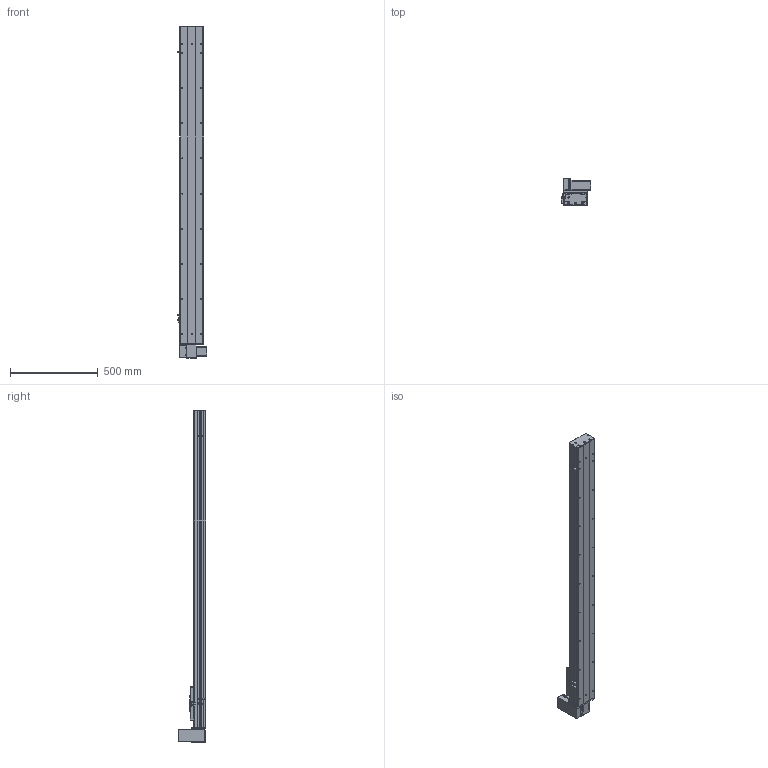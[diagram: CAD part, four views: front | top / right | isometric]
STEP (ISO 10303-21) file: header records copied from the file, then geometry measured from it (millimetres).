
FILE_DESCRIPTION (( 'STEP AP203' ), '1' );
FILE_NAME ('Y135CB-D90-S1500-UR-P400W.STEP', '2020-02-18T04:15:56', ( '微软用户' ), ( '微软中国' ), 'SwSTEP 2.0', 'SolidWorks 2017', '' );
FILE_SCHEMA (( 'CONFIG_CONTROL_DESIGN' ));
Length unit declared in the file: millimetre
Products named in the file (18): Y10B-耜蚾蟀諉啣----; 5CB --掛极耜裔啣-; 00B-俋欶BM--; C-詩湍揤踡え-陔; Y135CB-耜裔; Y135CB-D90-S1500-UR-P400W; 135CB--詩湍-CE; 135CB---遴掛极.-; Y100-135俋离換覜ん--; 35CB---喘謫眊楊擘啣; Y135C-陔俋离換覜結え-; 0B-埴倛裔啣; 5C--俋欶; 0B-源倛裔啣; C-雄赽釱--; 0B-萇儂楊擘啣; Y10B--々湍喘謫眊--666; san松下电机400不带刹车----
Assembly tree (21 placements, depth 2):
  Y135CB-D90-S1500-UR-P400W
    Y135CB-耜裔
    135CB---遴掛极.-
    35CB---喘謫眊楊擘啣
    0B-埴倛裔啣
    0B-源倛裔啣
    0B-萇儂楊擘啣
    san松下电机400不带刹车----
    5CB --掛极耜裔啣-  x2
    C-詩湍揤踡え-陔  x2
    135CB--詩湍-CE
    Y100-135俋离換覜ん--  x3
    Y135C-陔俋离換覜結え-
    5C--俋欶
    C-雄赽釱--
    Y10B--々湍喘謫眊--666
    Y10B-耜蚾蟀諉啣----
    00B-俋欶BM--
Bounding box: 167.5 x 158.7 x 1888 mm (x, y, z)
Volume: 5684794.4 mm3; surface area: 2237532.9 mm2
Topology: 21 solids, 21 shells, 957 faces, 2581 edges, 1710 vertices
Faces by surface type: cylinder 485, plane 456, cone 16
Entity records: 29955 total; most frequent: DIRECTION 4977, CARTESIAN_POINT 4944, ORIENTED_EDGE 4638, EDGE_CURVE 2319, AXIS2_PLACEMENT_3D 1819, VERTEX_POINT 1538, LINE 1339, VECTOR 1339
